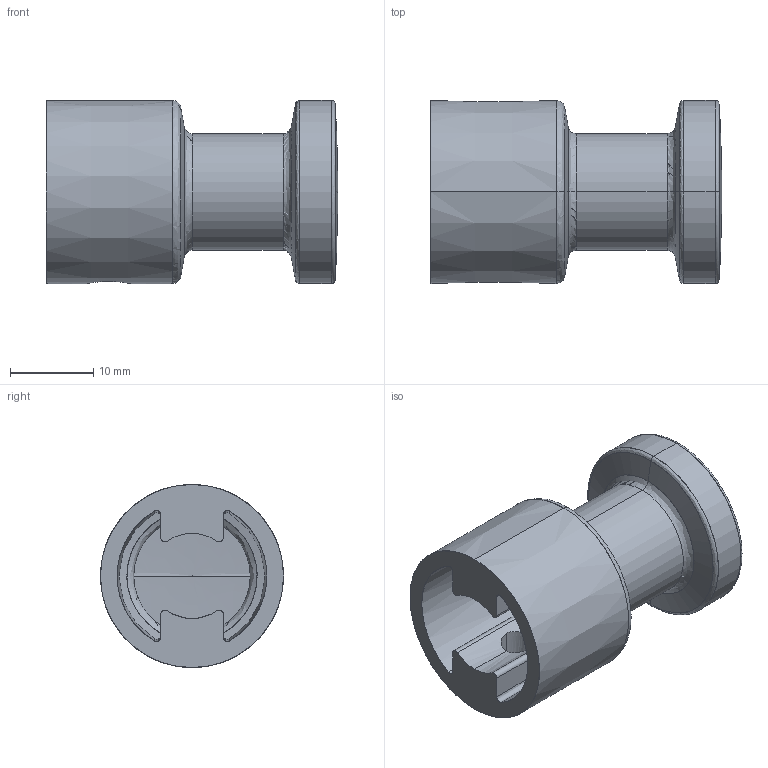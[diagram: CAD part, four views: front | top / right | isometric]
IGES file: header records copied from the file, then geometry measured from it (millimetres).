
Start section: SolidWorks IGES file using analytic representation for surfaces
Global section: file name: G:\Projects\New project\For Marketing\IGS\DXF & IGS\205__20.IGS; native system: SolidWorks 2010; preprocessor: SolidWorks 2010; author: linda; date: 151006.092316; units: millimetre
Bounding box: 35 x 22 x 22 mm (x, y, z)
Surface area: 3888.6 mm2 (no closed solid volume)
Topology: 0 solids, 0 shells, 46 faces, 492 edges, 491 vertices
Faces by surface type: revolution 27, bspline 19
